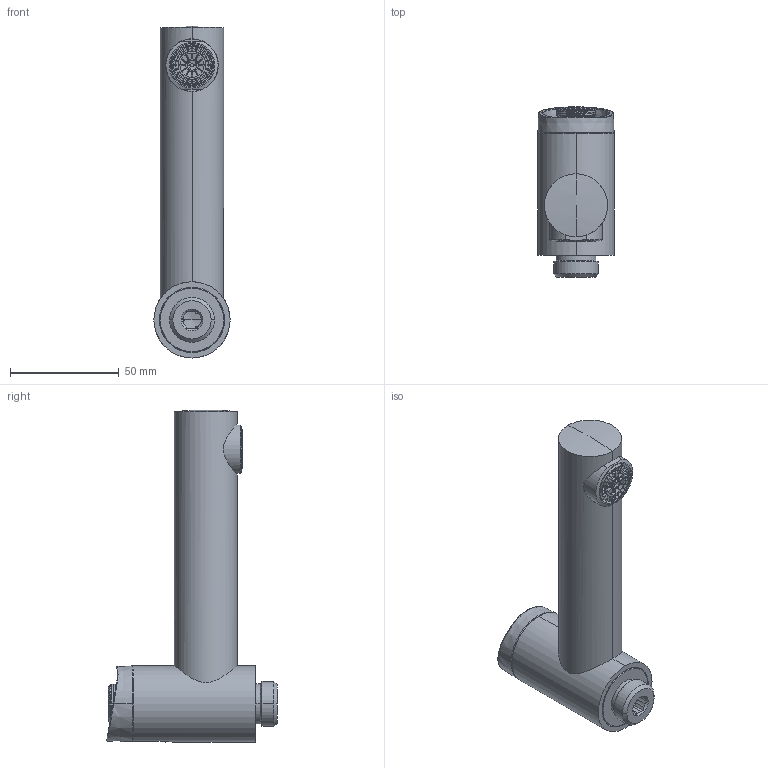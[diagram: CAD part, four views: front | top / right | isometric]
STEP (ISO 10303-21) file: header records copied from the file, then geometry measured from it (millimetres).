
FILE_DESCRIPTION((''),'2;1');
FILE_NAME('91484--00_ASM','2025-03-21T08:14:31',('kaka1'),(''),'CREO PARAMETRIC BY PTC INC, 2022244','CREO PARAMETRIC BY PTC INC, 2022244','');
FILE_SCHEMA(('CONFIG_CONTROL_DESIGN'));
Length unit declared in the file: millimetre
Products named in the file (30): 46936--; 06002004; 1001438; 4495300; 4669700; 1001466_ASM; 4494985; 4495585; 44950--_ASM; 1000260; 44943--; 1000259; 4449100; 44952--_ASM; 4494685; 4462200; 4494800_ASM; 4494500; 05625107; 4494700_ASM; 05625307; 4494400; 5880100; 49198--_DAMIXA_P791ID; 4919700; 4919900; 42304--_ASM; 48484--00_SUB01_ASM; 48484--00_ASM; 91484--00_ASM
Assembly tree (33 placements, depth 5):
  91484--00_ASM
    46936--
    06002004
    1001466_ASM
      1001438
      4495300
      4669700
    48484--00_ASM
      48484--00_SUB01_ASM
        44950--_ASM
          4494985
          4495585
        1000260
        44952--_ASM
          44943--
          1000259
          4449100
        4494800_ASM
          4494685
          4462200  x2
        4494700_ASM
          4494500  x2
          05625107
        05625307  x2
        4494400  x2
        5880100
        42304--_ASM
          49198--_DAMIXA_P791ID
          4919700
          4919900
Bounding box: 35 x 78.23 x 152.5 mm (x, y, z)
Volume: 72289.7 mm3; surface area: 75623.2 mm2
Topology: 25 solids, 32 shells, 1506 faces, 4021 edges, 2493 vertices
Faces by surface type: plane 448, cylinder 397, torus 295, cone 240, bspline 106, sphere 16, extrusion 4
Entity records: 54196 total; most frequent: CARTESIAN_POINT 18254, DIRECTION 7669, ORIENTED_EDGE 7498, EDGE_CURVE 3763, AXIS2_PLACEMENT_3D 3209, VERTEX_POINT 2345, CIRCLE 1786, EDGE_LOOP 1549
